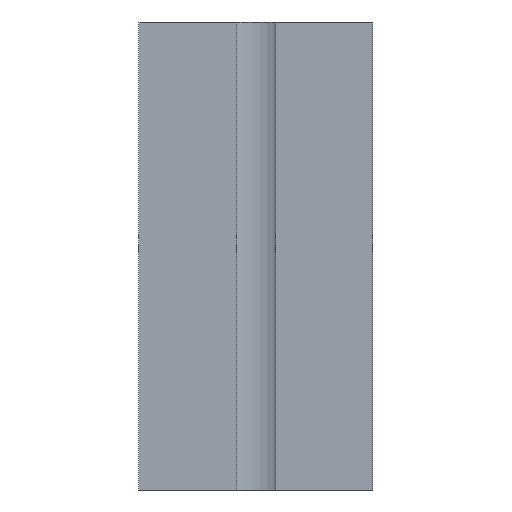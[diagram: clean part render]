
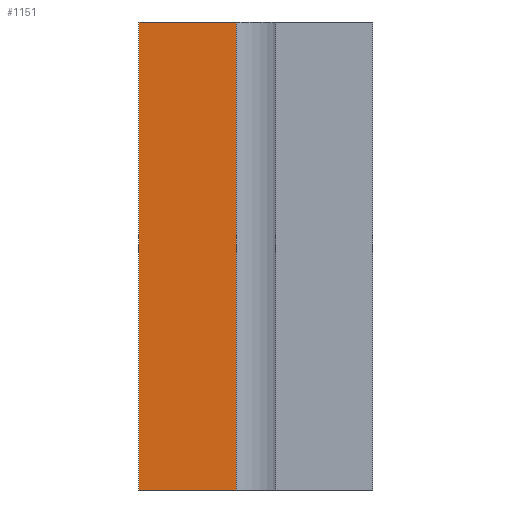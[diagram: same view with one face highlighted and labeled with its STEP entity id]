
A CAD part, left-side view. The second image highlights one B-rep face of the part: STEP entity #1151.
In plain terms, the highlighted planar face has unit normal (-1, 0, 0).
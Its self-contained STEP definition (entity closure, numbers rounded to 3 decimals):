
#46=PLANE('',#1229);
#101=FACE_OUTER_BOUND('',#163,.T.);
#163=EDGE_LOOP('',(#881,#882,#883,#884));
#261=LINE('',#1728,#401);
#262=LINE('',#1731,#402);
#263=LINE('',#1733,#403);
#264=LINE('',#1734,#404);
#401=VECTOR('',#1413,100.);
#402=VECTOR('',#1416,20.75);
#403=VECTOR('',#1417,20.75);
#404=VECTOR('',#1418,100.);
#561=VERTEX_POINT('',#1724);
#562=VERTEX_POINT('',#1726);
#563=VERTEX_POINT('',#1730);
#564=VERTEX_POINT('',#1732);
#695=EDGE_CURVE('',#561,#562,#261,.T.);
#696=EDGE_CURVE('',#561,#563,#262,.T.);
#697=EDGE_CURVE('',#564,#562,#263,.T.);
#698=EDGE_CURVE('',#563,#564,#264,.T.);
#881=ORIENTED_EDGE('',*,*,#696,.F.);
#882=ORIENTED_EDGE('',*,*,#695,.T.);
#883=ORIENTED_EDGE('',*,*,#697,.F.);
#884=ORIENTED_EDGE('',*,*,#698,.F.);
#1151=ADVANCED_FACE('',(#101),#46,.T.);
#1229=AXIS2_PLACEMENT_3D('',#1729,#1414,#1415);
#1413=DIRECTION('',(0.,0.,1.));
#1414=DIRECTION('center_axis',(-1.,0.,0.));
#1415=DIRECTION('ref_axis',(0.,-1.,0.));
#1416=DIRECTION('',(0.,1.,0.));
#1417=DIRECTION('',(0.,-1.,0.));
#1418=DIRECTION('',(0.,0.,1.));
#1724=CARTESIAN_POINT('',(-0.02,29.231,0.));
#1726=CARTESIAN_POINT('',(-0.02,29.231,100.));
#1728=CARTESIAN_POINT('',(-0.02,29.231,0.));
#1729=CARTESIAN_POINT('Origin',(-0.02,49.981,0.));
#1730=CARTESIAN_POINT('',(-0.02,49.981,0.));
#1731=CARTESIAN_POINT('',(-0.02,29.231,0.));
#1732=CARTESIAN_POINT('',(-0.02,49.981,100.));
#1733=CARTESIAN_POINT('',(-0.02,29.231,100.));
#1734=CARTESIAN_POINT('',(-0.02,49.981,0.));
